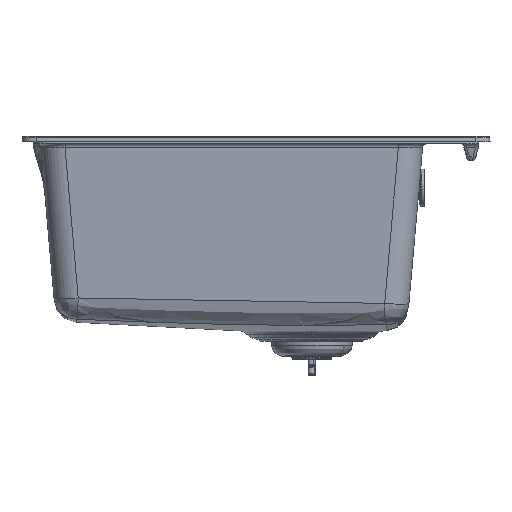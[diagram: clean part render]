
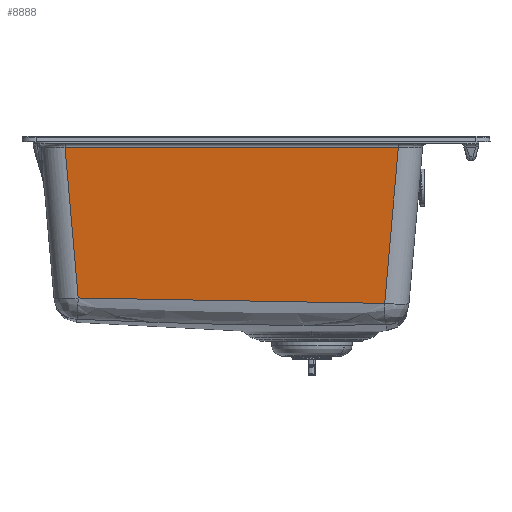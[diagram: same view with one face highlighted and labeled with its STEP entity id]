
A CAD part, front view. The second image highlights one B-rep face of the part: STEP entity #8888.
In plain terms, the highlighted planar face has unit normal (0, -0.996, -0.087).
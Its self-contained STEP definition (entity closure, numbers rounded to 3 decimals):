
#8888=ADVANCED_FACE('',(#10790),#35521,.T.);
#10790=FACE_OUTER_BOUND('',#12720,.T.);
#12720=EDGE_LOOP('',(#16301,#16302,#16303,#16304));
#16301=ORIENTED_EDGE('',*,*,#25312,.T.);
#16302=ORIENTED_EDGE('',*,*,#25321,.T.);
#16303=ORIENTED_EDGE('',*,*,#25360,.T.);
#16304=ORIENTED_EDGE('',*,*,#25318,.F.);
#25312=EDGE_CURVE('',#32807,#32808,#30055,.T.);
#25318=EDGE_CURVE('',#32807,#32811,#30056,.T.);
#25321=EDGE_CURVE('',#32808,#32812,#30059,.T.);
#25360=EDGE_CURVE('',#32812,#32811,#30077,.T.);
#30055=B_SPLINE_CURVE_WITH_KNOTS('',1,(#53517,#53518),.UNSPECIFIED.,.F.,
 .F.,(2,2),(-356.045,0.),.UNSPECIFIED.);
#30056=B_SPLINE_CURVE_WITH_KNOTS('',1,(#53538,#53539),.UNSPECIFIED.,.F.,
 .F.,(2,2),(0.,167.457),.UNSPECIFIED.);
#30059=B_SPLINE_CURVE_WITH_KNOTS('',1,(#53544,#53545),.UNSPECIFIED.,.F.,
 .F.,(2,2),(-161.644,0.),.UNSPECIFIED.);
#30077=B_SPLINE_CURVE_WITH_KNOTS('',3,(#53718,#53719,#53720,#53721,#53722,
#53723,#53724),.UNSPECIFIED.,.F.,.F.,(4,1,1,1,4),(-327.592,-233.994,
-140.397,-93.598,0.),.UNSPECIFIED.);
#32807=VERTEX_POINT('',#50938);
#32808=VERTEX_POINT('',#50939);
#32811=VERTEX_POINT('',#50942);
#32812=VERTEX_POINT('',#50943);
#35521=PLANE('',#36284);
#36284=AXIS2_PLACEMENT_3D('',#48284,#39373,$);
#39373=DIRECTION('',(0.,-0.996,-0.087));
#48284=CARTESIAN_POINT('',(152.023,-369.924,-12.564));
#50938=CARTESIAN_POINT('',(152.023,-369.924,-12.564));
#50939=CARTESIAN_POINT('',(-204.023,-369.924,-12.564));
#50942=CARTESIAN_POINT('',(137.483,-355.384,-178.754));
#50943=CARTESIAN_POINT('',(-189.988,-355.889,-172.985));
#53517=CARTESIAN_POINT('',(152.023,-369.924,-12.564));
#53518=CARTESIAN_POINT('',(-204.023,-369.924,-12.564));
#53538=CARTESIAN_POINT('',(152.023,-369.924,-12.564));
#53539=CARTESIAN_POINT('',(137.483,-355.384,-178.754));
#53544=CARTESIAN_POINT('',(-204.023,-369.924,-12.564));
#53545=CARTESIAN_POINT('',(-189.988,-355.889,-172.985));
#53718=CARTESIAN_POINT('',(-189.988,-355.889,-172.985));
#53719=CARTESIAN_POINT('',(-158.817,-355.774,-174.298));
#53720=CARTESIAN_POINT('',(-96.469,-355.558,-176.765));
#53721=CARTESIAN_POINT('',(-18.502,-355.367,-178.953));
#53722=CARTESIAN_POINT('',(59.492,-355.29,-179.829));
#53723=CARTESIAN_POINT('',(106.291,-355.328,-179.39));
#53724=CARTESIAN_POINT('',(137.483,-355.384,-178.754));
